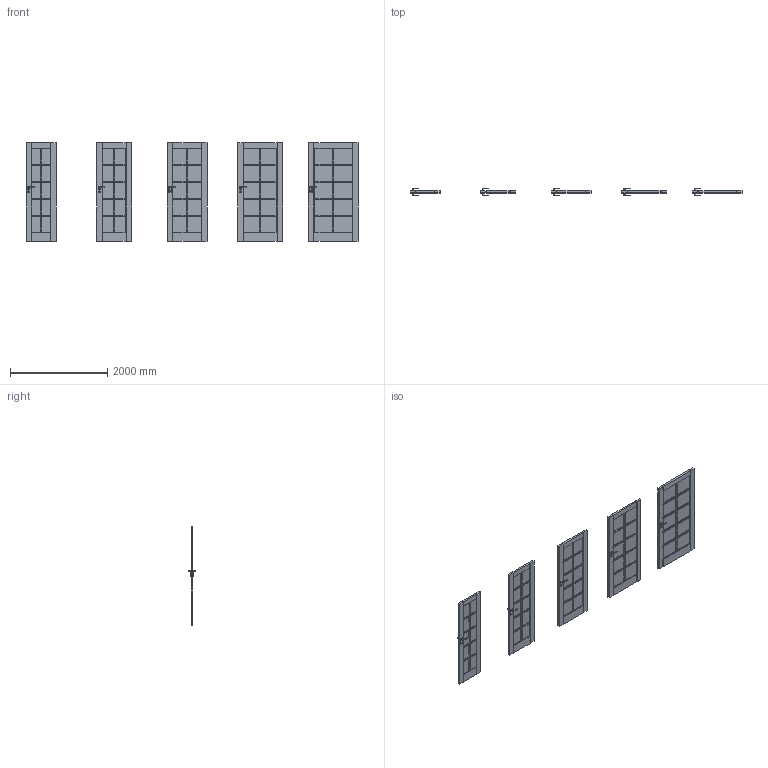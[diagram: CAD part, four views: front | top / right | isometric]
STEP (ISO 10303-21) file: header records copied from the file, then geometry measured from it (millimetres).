
FILE_DESCRIPTION(/* description */ (''),/* implementation_level */ '2;1');
FILE_NAME(/* name */ '050225_A_2-Skrzydło CORDOBA model duży szpros_ polska norma _PN__ bezprzylgowe..stp',/* time_stamp */ '2025-01-16T13:11:20+01:00',/* author */ (''),/* organization */ (''),/* preprocessor_version */ 'ST-DEVELOPER v16',/* originating_system */ 'SIEMENS PLM Software NX 11.0',/* authorisation */ '');
FILE_SCHEMA (('AUTOMOTIVE_DESIGN { 1 0 10303 214 3 1 1 1 }'));
Products named in the file (1): bkni31A01ABE69yi
Bounding box: 6818 x 153.13 x 2017 mm (x, y, z)
Volume: 165665949 mm3; surface area: 21704236.2 mm2
Topology: 25 solids, 25 shells, 3380 faces, 9940 edges, 6240 vertices
Faces by surface type: plane 2620, cylinder 460, bspline 160, sphere 140
Full cylindrical faces by diameter (mm): 12 x20
Entity records: 115878 total; most frequent: CARTESIAN_POINT 26421, ORIENTED_EDGE 19560, DIRECTION 17502, EDGE_CURVE 9780, LINE 7900, VECTOR 7900, VERTEX_POINT 6240, AXIS2_PLACEMENT_3D 4801
